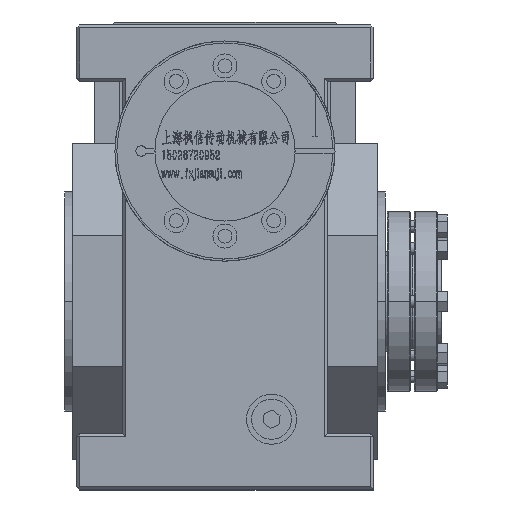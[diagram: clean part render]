
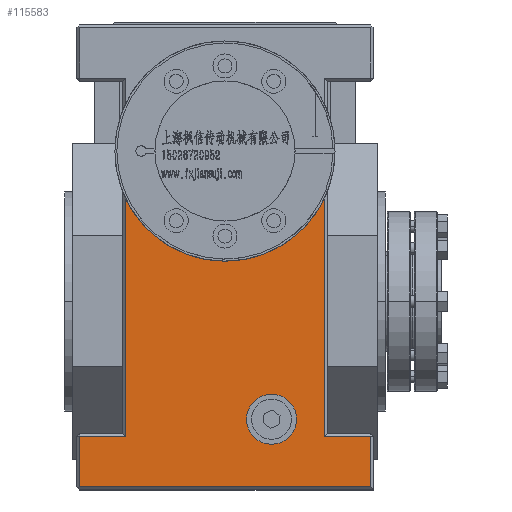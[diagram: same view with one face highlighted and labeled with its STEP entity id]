
A CAD part, top view. The second image highlights one B-rep face of the part: STEP entity #115583.
In plain terms, the highlighted planar face has unit normal (0, 0, 1).
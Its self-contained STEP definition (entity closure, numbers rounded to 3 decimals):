
#978 = AXIS2_PLACEMENT_3D ( 'NONE', #56930, #57511, #84158 ) ;
#2808 = EDGE_CURVE ( 'NONE', #70632, #72254, #110396, .T. ) ;
#4467 = VERTEX_POINT ( 'NONE', #79884 ) ;
#4494 = CARTESIAN_POINT ( 'NONE',  ( 49.5, 54.409, 104. ) ) ;
#4669 = VERTEX_POINT ( 'NONE', #48377 ) ;
#5106 = VERTEX_POINT ( 'NONE', #24564 ) ;
#5296 = DIRECTION ( 'NONE',  ( 0., -1., 0. ) ) ;
#5551 = CIRCLE ( 'NONE', #35756, 12.5 ) ;
#5691 = EDGE_LOOP ( 'NONE', ( #23922, #62974 ) ) ;
#5772 = CARTESIAN_POINT ( 'NONE',  ( 0., 75., 104. ) ) ;
#7410 = EDGE_CURVE ( 'NONE', #41401, #4669, #58047, .T. ) ;
#9480 = ORIENTED_EDGE ( 'NONE', *, *, #2808, .T. ) ;
#10348 = CIRCLE ( 'NONE', #978, 12.5 ) ;
#12891 = FACE_BOUND ( 'NONE', #5691, .T. ) ;
#14130 = CARTESIAN_POINT ( 'NONE',  ( -49.5, 51.026, 104. ) ) ;
#14251 = VECTOR ( 'NONE', #83386, 1000. ) ;
#14449 = DIRECTION ( 'NONE',  ( 0., 0., 1. ) ) ;
#15811 = EDGE_CURVE ( 'NONE', #72254, #40631, #82797, .T. ) ;
#19246 = DIRECTION ( 'NONE',  ( -1., 0., 0. ) ) ;
#23103 = CARTESIAN_POINT ( 'NONE',  ( -49.5, -66., 104. ) ) ;
#23922 = ORIENTED_EDGE ( 'NONE', *, *, #84713, .F. ) ;
#24564 = CARTESIAN_POINT ( 'NONE',  ( -72.5, -92.5, 104. ) ) ;
#27732 = VECTOR ( 'NONE', #47257, 1000. ) ;
#27877 = ORIENTED_EDGE ( 'NONE', *, *, #50410, .T. ) ;
#28383 = VECTOR ( 'NONE', #55350, 1000. ) ;
#29285 = LINE ( 'NONE', #109817, #97404 ) ;
#29504 = CARTESIAN_POINT ( 'NONE',  ( 74., -92.5, 104. ) ) ;
#33922 = ORIENTED_EDGE ( 'NONE', *, *, #50106, .T. ) ;
#35756 = AXIS2_PLACEMENT_3D ( 'NONE', #84944, #14449, #49942 ) ;
#36427 = VERTEX_POINT ( 'NONE', #78269 ) ;
#37986 = ORIENTED_EDGE ( 'NONE', *, *, #7410, .T. ) ;
#38431 = ORIENTED_EDGE ( 'NONE', *, *, #116613, .T. ) ;
#38970 = EDGE_CURVE ( 'NONE', #41401, #52429, #71611, .T. ) ;
#39152 = EDGE_LOOP ( 'NONE', ( #38431, #9480, #84362, #33922, #52136, #37986, #27877, #80973 ) ) ;
#40091 = DIRECTION ( 'NONE',  ( -1., 0., 0. ) ) ;
#40588 = DIRECTION ( 'NONE',  ( 0., 1., 0. ) ) ;
#40631 = VERTEX_POINT ( 'NONE', #108789 ) ;
#41401 = VERTEX_POINT ( 'NONE', #14130 ) ;
#43049 = DIRECTION ( 'NONE',  ( 0., 1., 0. ) ) ;
#47242 = FACE_OUTER_BOUND ( 'NONE', #39152, .T. ) ;
#47257 = DIRECTION ( 'NONE',  ( -1., 0., 0. ) ) ;
#48377 = CARTESIAN_POINT ( 'NONE',  ( -49.5, -67.5, 104. ) ) ;
#49942 = DIRECTION ( 'NONE',  ( 1., 0., 0. ) ) ;
#50106 = EDGE_CURVE ( 'NONE', #40631, #52429, #59561, .T. ) ;
#50263 = LINE ( 'NONE', #86411, #103936 ) ;
#50410 = EDGE_CURVE ( 'NONE', #4669, #4467, #29285, .T. ) ;
#52136 = ORIENTED_EDGE ( 'NONE', *, *, #38970, .F. ) ;
#52429 = VERTEX_POINT ( 'NONE', #74827 ) ;
#53733 = AXIS2_PLACEMENT_3D ( 'NONE', #102877, #110019, #40091 ) ;
#55350 = DIRECTION ( 'NONE',  ( 0., 1., 0. ) ) ;
#56930 = CARTESIAN_POINT ( 'NONE',  ( 23.262, -59., 104. ) ) ;
#57511 = DIRECTION ( 'NONE',  ( 0., 0., 1. ) ) ;
#58047 = LINE ( 'NONE', #23103, #64328 ) ;
#59561 = LINE ( 'NONE', #4494, #61457 ) ;
#61457 = VECTOR ( 'NONE', #40588, 1000. ) ;
#62974 = ORIENTED_EDGE ( 'NONE', *, *, #97514, .F. ) ;
#64328 = VECTOR ( 'NONE', #85288, 1000. ) ;
#70632 = VERTEX_POINT ( 'NONE', #74934 ) ;
#71611 = CIRCLE ( 'NONE', #86728, 55. ) ;
#72254 = VERTEX_POINT ( 'NONE', #116170 ) ;
#74827 = CARTESIAN_POINT ( 'NONE',  ( 49.5, 51.026, 104. ) ) ;
#74934 = CARTESIAN_POINT ( 'NONE',  ( 72.5, -92.5, 104. ) ) ;
#78269 = CARTESIAN_POINT ( 'NONE',  ( 10.762, -59., 104. ) ) ;
#78581 = DIRECTION ( 'NONE',  ( 0., 0., 1. ) ) ;
#79884 = CARTESIAN_POINT ( 'NONE',  ( -72.5, -67.5, 104. ) ) ;
#80973 = ORIENTED_EDGE ( 'NONE', *, *, #86061, .T. ) ;
#82797 = LINE ( 'NONE', #110601, #27732 ) ;
#83386 = DIRECTION ( 'NONE',  ( 1., 0., 0. ) ) ;
#84158 = DIRECTION ( 'NONE',  ( 1., 0., 0. ) ) ;
#84362 = ORIENTED_EDGE ( 'NONE', *, *, #15811, .T. ) ;
#84713 = EDGE_CURVE ( 'NONE', #88966, #36427, #5551, .T. ) ;
#84944 = CARTESIAN_POINT ( 'NONE',  ( 23.262, -59., 104. ) ) ;
#85288 = DIRECTION ( 'NONE',  ( 0., -1., 0. ) ) ;
#85640 = CARTESIAN_POINT ( 'NONE',  ( 35.762, -59., 104. ) ) ;
#86061 = EDGE_CURVE ( 'NONE', #4467, #5106, #50263, .T. ) ;
#86411 = CARTESIAN_POINT ( 'NONE',  ( -72.5, 138., 104. ) ) ;
#86728 = AXIS2_PLACEMENT_3D ( 'NONE', #5772, #78581, #43049 ) ;
#88966 = VERTEX_POINT ( 'NONE', #85640 ) ;
#93442 = LINE ( 'NONE', #29504, #14251 ) ;
#97404 = VECTOR ( 'NONE', #19246, 1000. ) ;
#97514 = EDGE_CURVE ( 'NONE', #36427, #88966, #10348, .T. ) ;
#100949 = CARTESIAN_POINT ( 'NONE',  ( 72.5, -66., 104. ) ) ;
#102877 = CARTESIAN_POINT ( 'NONE',  ( 74., 138., 104. ) ) ;
#103936 = VECTOR ( 'NONE', #5296, 1000. ) ;
#108789 = CARTESIAN_POINT ( 'NONE',  ( 49.5, -67.5, 104. ) ) ;
#109817 = CARTESIAN_POINT ( 'NONE',  ( -74., -67.5, 104. ) ) ;
#110019 = DIRECTION ( 'NONE',  ( 0., 0., -1. ) ) ;
#110396 = LINE ( 'NONE', #100949, #28383 ) ;
#110601 = CARTESIAN_POINT ( 'NONE',  ( 74., -67.5, 104. ) ) ;
#111770 = PLANE ( 'NONE',  #53733 ) ;
#115583 = ADVANCED_FACE ( 'NONE', ( #12891, #47242 ), #111770, .F. ) ;
#116170 = CARTESIAN_POINT ( 'NONE',  ( 72.5, -67.5, 104. ) ) ;
#116613 = EDGE_CURVE ( 'NONE', #5106, #70632, #93442, .T. ) ;
